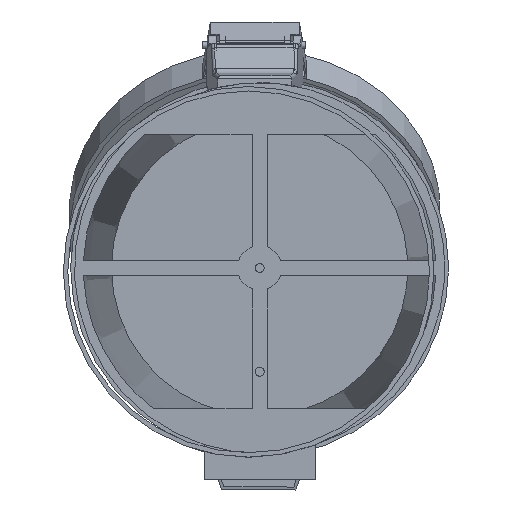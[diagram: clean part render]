
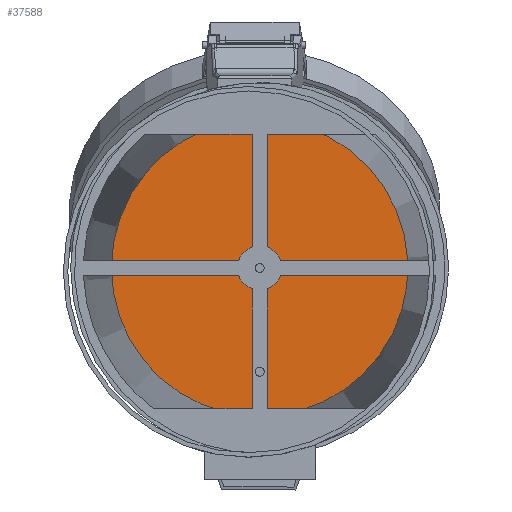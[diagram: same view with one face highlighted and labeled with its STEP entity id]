
A CAD part, front view. The second image highlights one B-rep face of the part: STEP entity #37588.
In plain terms, the highlighted planar face has unit normal (0, -1, 0).
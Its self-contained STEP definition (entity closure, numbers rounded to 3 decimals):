
#3161=PLANE('',#41568);
#5041=FACE_OUTER_BOUND('',#7515,.T.);
#7515=EDGE_LOOP('',(#32687,#32688));
#14476=CIRCLE('',#41565,100.);
#14477=CIRCLE('',#41566,100.);
#17997=VERTEX_POINT('',#83235);
#17998=VERTEX_POINT('',#83237);
#22964=EDGE_CURVE('',#17998,#17997,#14476,.T.);
#22965=EDGE_CURVE('',#17997,#17998,#14477,.T.);
#32687=ORIENTED_EDGE('',*,*,#22964,.T.);
#32688=ORIENTED_EDGE('',*,*,#22965,.T.);
#37588=ADVANCED_FACE('',(#5041),#3161,.T.);
#41565=AXIS2_PLACEMENT_3D('',#83238,#50598,#50599);
#41566=AXIS2_PLACEMENT_3D('',#83239,#50600,#50601);
#41568=AXIS2_PLACEMENT_3D('',#83241,#50604,#50605);
#50598=DIRECTION('center_axis',(0.,-1.,0.));
#50599=DIRECTION('ref_axis',(0.,0.,
-1.));
#50600=DIRECTION('center_axis',(0.,-1.,0.));
#50601=DIRECTION('ref_axis',(0.,0.,
-1.));
#50604=DIRECTION('center_axis',(0.,-1.,0.));
#50605=DIRECTION('ref_axis',(0.,0.,-1.));
#83235=CARTESIAN_POINT('',(-58.779,0.,-80.902));
#83237=CARTESIAN_POINT('',(0.,0.,100.));
#83238=CARTESIAN_POINT('Origin',(0.,0.,0.));
#83239=CARTESIAN_POINT('Origin',(0.,0.,0.));
#83241=CARTESIAN_POINT('Origin',(0.,0.,0.));
